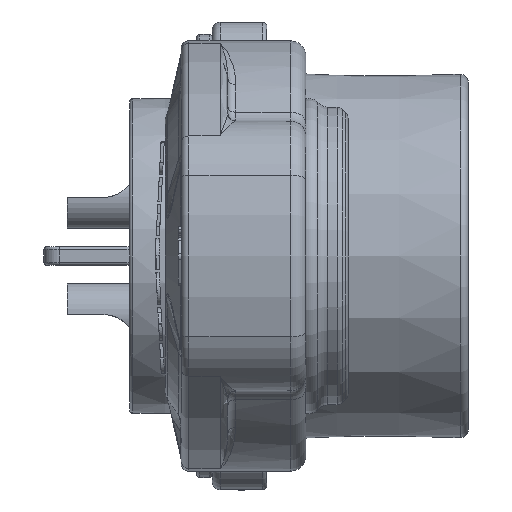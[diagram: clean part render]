
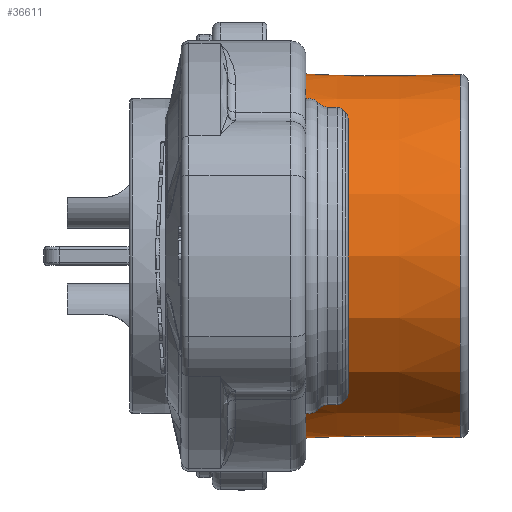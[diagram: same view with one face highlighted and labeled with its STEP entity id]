
A CAD part, front view. The second image highlights one B-rep face of the part: STEP entity #36611.
In plain terms, the highlighted conical face has half-angle 0.5 degrees and reference radius 11.65 mm.
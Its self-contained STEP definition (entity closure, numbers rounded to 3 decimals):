
#947 = CARTESIAN_POINT ( 'NONE',  ( -0.496, 8.733, 7.718 ) ) ;
#1223 = DIRECTION ( 'NONE',  ( -1., 0., 0. ) ) ;
#3100 = EDGE_CURVE ( 'NONE', #36828, #10636, #11982, .T. ) ;
#3257 = CARTESIAN_POINT ( 'NONE',  ( -12.404, 8.786, -7.814 ) ) ;
#4330 = CARTESIAN_POINT ( 'NONE',  ( -12.404, 8.786, 7.814 ) ) ;
#4370 = DIRECTION ( 'NONE',  ( 0., 0., 1. ) ) ;
#4850 = EDGE_CURVE ( 'NONE', #10636, #38779, #28031, .T. ) ;
#7124 = CIRCLE ( 'NONE', #34638, 11.654 ) ;
#7239 = CARTESIAN_POINT ( 'NONE',  ( -6.9, 8.761, -7.77 ) ) ;
#7268 = CARTESIAN_POINT ( 'NONE',  ( -8.135, 8.767, 7.78 ) ) ;
#7695 = CARTESIAN_POINT ( 'NONE',  ( -6., 8.757, 7.762 ) ) ;
#8498 = ORIENTED_EDGE ( 'NONE', *, *, #40592, .T. ) ;
#8505 = B_SPLINE_CURVE_WITH_KNOTS ( 'NONE', 3,
 ( #20321, #23674, #19901, #7695, #7268, #38795, #4330 ),
 .UNSPECIFIED., .F., .F.,
 ( 4, 3, 4 ),
 ( 0., 0.006, 0.012 ),
 .UNSPECIFIED. ) ;
#10406 = CARTESIAN_POINT ( 'NONE',  ( -10.57, 8.778, -7.8 ) ) ;
#10636 = VERTEX_POINT ( 'NONE', #3257 ) ;
#11982 = CIRCLE ( 'NONE', #28059, 11.758 ) ;
#13313 = CARTESIAN_POINT ( 'NONE',  ( -12.404, 0., 0. ) ) ;
#14189 = EDGE_CURVE ( 'NONE', #27189, #36828, #8505, .T. ) ;
#15005 = CARTESIAN_POINT ( 'NONE',  ( -0.496, 8.733, -7.718 ) ) ;
#15885 = CARTESIAN_POINT ( 'NONE',  ( -2.631, 8.742, -7.735 ) ) ;
#17424 = DIRECTION ( 'NONE',  ( -1., 0., 0. ) ) ;
#19901 = CARTESIAN_POINT ( 'NONE',  ( -4.165, 8.749, 7.747 ) ) ;
#20074 = ORIENTED_EDGE ( 'NONE', *, *, #14189, .T. ) ;
#20080 = CARTESIAN_POINT ( 'NONE',  ( -4.765, 8.752, -7.752 ) ) ;
#20081 = ORIENTED_EDGE ( 'NONE', *, *, #4850, .T. ) ;
#20321 = CARTESIAN_POINT ( 'NONE',  ( -0.496, 8.733, 7.718 ) ) ;
#22971 = DIRECTION ( 'NONE',  ( 0., 0., 1. ) ) ;
#23674 = CARTESIAN_POINT ( 'NONE',  ( -2.33, 8.741, 7.733 ) ) ;
#23932 = CARTESIAN_POINT ( 'NONE',  ( -0.496, 0., 0. ) ) ;
#26353 = CARTESIAN_POINT ( 'NONE',  ( -12.404, 8.786, -7.814 ) ) ;
#27189 = VERTEX_POINT ( 'NONE', #947 ) ;
#28031 = B_SPLINE_CURVE_WITH_KNOTS ( 'NONE', 3,
 ( #26353, #10406, #36017, #7239, #20080, #15885, #28680 ),
 .UNSPECIFIED., .F., .F.,
 ( 4, 3, 4 ),
 ( 0., 0.006, 0.012 ),
 .UNSPECIFIED. ) ;
#28059 = AXIS2_PLACEMENT_3D ( 'NONE', #13313, #38714, #22971 ) ;
#28080 = ORIENTED_EDGE ( 'NONE', *, *, #3100, .T. ) ;
#28680 = CARTESIAN_POINT ( 'NONE',  ( -0.496, 8.733, -7.718 ) ) ;
#29105 = EDGE_LOOP ( 'NONE', ( #20074, #28080, #20081, #8498 ) ) ;
#30204 = CARTESIAN_POINT ( 'NONE',  ( 0., 0., 0. ) ) ;
#33999 = DIRECTION ( 'NONE',  ( 0., 0., -1. ) ) ;
#34638 = AXIS2_PLACEMENT_3D ( 'NONE', #23932, #1223, #33999 ) ;
#35091 = AXIS2_PLACEMENT_3D ( 'NONE', #30204, #17424, #4370 ) ;
#36017 = CARTESIAN_POINT ( 'NONE',  ( -8.735, 8.77, -7.785 ) ) ;
#36611 = ADVANCED_FACE ( 'NONE', ( #39684 ), #41144, .T. ) ;
#36828 = VERTEX_POINT ( 'NONE', #41547 ) ;
#38714 = DIRECTION ( 'NONE',  ( 1., 0., 0. ) ) ;
#38779 = VERTEX_POINT ( 'NONE', #15005 ) ;
#38795 = CARTESIAN_POINT ( 'NONE',  ( -10.269, 8.776, 7.797 ) ) ;
#39684 = FACE_OUTER_BOUND ( 'NONE', #29105, .T. ) ;
#40592 = EDGE_CURVE ( 'NONE', #38779, #27189, #7124, .T. ) ;
#41144 = CONICAL_SURFACE ( 'NONE', #35091, 11.65, 0.009 ) ;
#41547 = CARTESIAN_POINT ( 'NONE',  ( -12.404, 8.786, 7.814 ) ) ;
